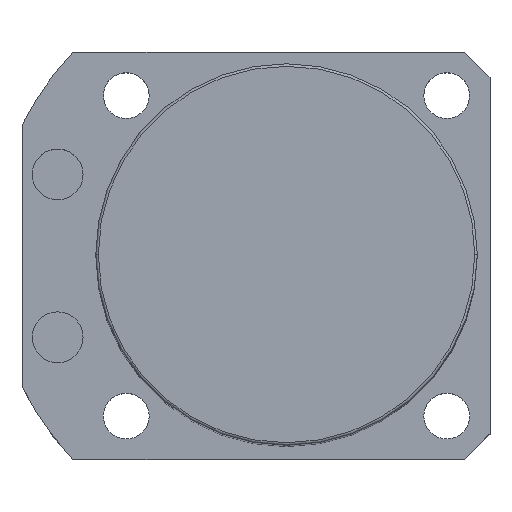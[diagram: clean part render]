
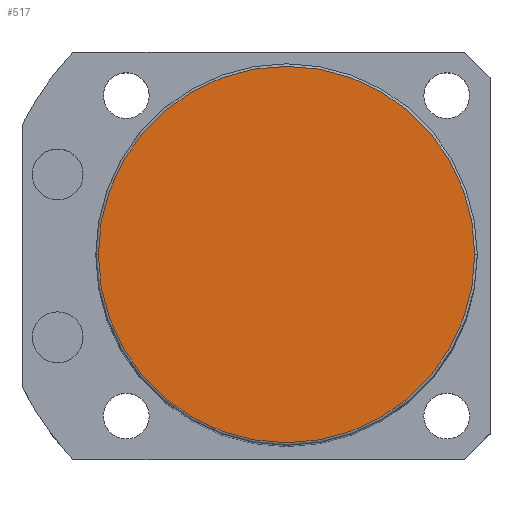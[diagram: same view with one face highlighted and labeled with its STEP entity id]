
A CAD part, top view. The second image highlights one B-rep face of the part: STEP entity #517.
In plain terms, the highlighted planar face has unit normal (0, 0, 1).
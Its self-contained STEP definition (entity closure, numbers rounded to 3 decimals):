
#4 = CARTESIAN_POINT ( 'NONE',  ( 0., 0., 170.5 ) ) ;
#233 = CARTESIAN_POINT ( 'NONE',  ( 0., 0., 170.5 ) ) ;
#437 = DIRECTION ( 'NONE',  ( 0., 0., 1. ) ) ;
#517 = ADVANCED_FACE ( 'NONE', ( #1736 ), #1651, .T. ) ;
#584 = AXIS2_PLACEMENT_3D ( 'NONE', #4, #437, #1839 ) ;
#636 = AXIS2_PLACEMENT_3D ( 'NONE', #233, #1630, #1843 ) ;
#856 = CARTESIAN_POINT ( 'NONE',  ( -37., 0., 170.5 ) ) ;
#1097 = CARTESIAN_POINT ( 'NONE',  ( 0., 0., 170.5 ) ) ;
#1106 = DIRECTION ( 'NONE',  ( 1., 0., 0. ) ) ;
#1160 = CARTESIAN_POINT ( 'NONE',  ( 37., 0., 170.5 ) ) ;
#1236 = CIRCLE ( 'NONE', #636, 37. ) ;
#1305 = VERTEX_POINT ( 'NONE', #856 ) ;
#1510 = EDGE_CURVE ( 'NONE', #2472, #1305, #2079, .T. ) ;
#1630 = DIRECTION ( 'NONE',  ( 0., 0., 1. ) ) ;
#1651 = PLANE ( 'NONE',  #584 ) ;
#1736 = FACE_OUTER_BOUND ( 'NONE', #2451, .T. ) ;
#1839 = DIRECTION ( 'NONE',  ( 1., 0., 0. ) ) ;
#1843 = DIRECTION ( 'NONE',  ( 1., 0., 0. ) ) ;
#1949 = ORIENTED_EDGE ( 'NONE', *, *, #1510, .T. ) ;
#2079 = CIRCLE ( 'NONE', #2580, 37. ) ;
#2090 = ORIENTED_EDGE ( 'NONE', *, *, #2340, .T. ) ;
#2314 = DIRECTION ( 'NONE',  ( 0., 0., 1. ) ) ;
#2340 = EDGE_CURVE ( 'NONE', #1305, #2472, #1236, .T. ) ;
#2451 = EDGE_LOOP ( 'NONE', ( #1949, #2090 ) ) ;
#2472 = VERTEX_POINT ( 'NONE', #1160 ) ;
#2580 = AXIS2_PLACEMENT_3D ( 'NONE', #1097, #2314, #1106 ) ;
